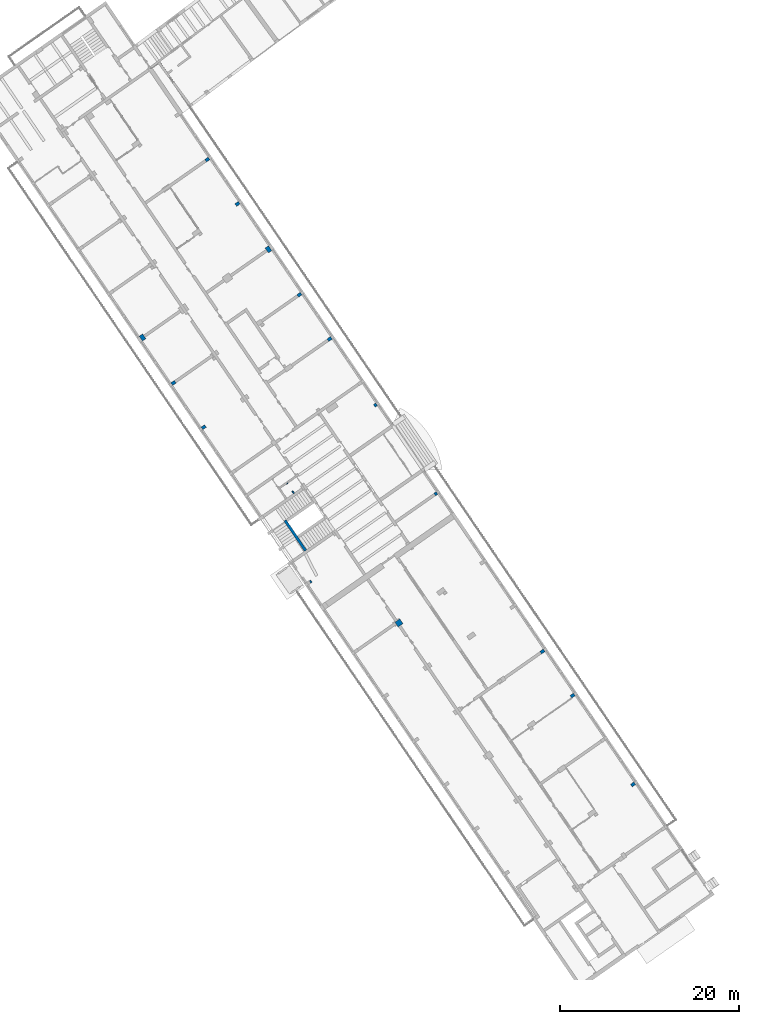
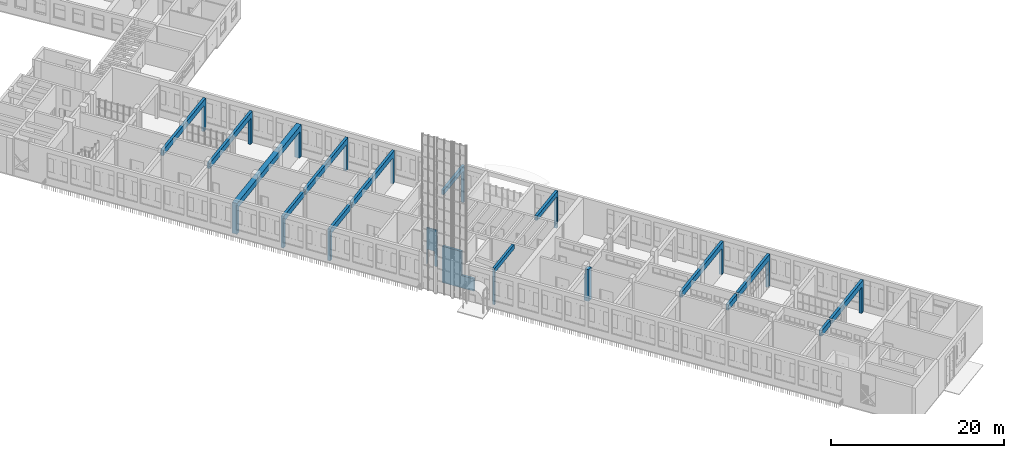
# One storey, part 146 of 157: 16 walls.
"""IFC2X3 building model written with IfcOpenShell, lengths in millimetres."""

from ifc_helpers import new_model, entity, si_unit, converted_unit, derived_unit, direction, frame, origin, place, context, subcontext, project, spatial, faceted_brep, material, layer, layer_set, type_object, element, save


model = new_model("IFC2X3")

# Units and contexts
model_context = context("Model", 3, precision=0.01, world=origin(), true_north=direction((6.123031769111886e-17, 1.0)))
body_context = subcontext(model_context, "Body", "Model", "MODEL_VIEW")
ifc_project = project(units=[si_unit("LENGTHUNIT", "METRE", prefix="MILLI"), si_unit("AREAUNIT", "SQUARE_METRE"), si_unit("VOLUMEUNIT", "CUBIC_METRE"), converted_unit("PLANEANGLEUNIT", "DEGREE", entity("IfcRatioMeasure", 0.017453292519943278), si_unit("PLANEANGLEUNIT", "RADIAN"), dimensions=[0, 0, 0, 0, 0, 0, 0]), si_unit("MASSUNIT", "GRAM", prefix="KILO"), derived_unit("MASSDENSITYUNIT", [(si_unit("MASSUNIT", "GRAM", prefix="KILO"), 1), (si_unit("LENGTHUNIT", "METRE"), -3)]), derived_unit("MOMENTOFINERTIAUNIT", [(si_unit("LENGTHUNIT", "METRE"), 4)]), si_unit("TIMEUNIT", "SECOND"), si_unit("FREQUENCYUNIT", "HERTZ"), si_unit("THERMODYNAMICTEMPERATUREUNIT", "DEGREE_CELSIUS"), derived_unit("THERMALTRANSMITTANCEUNIT", [(si_unit("MASSUNIT", "GRAM", prefix="KILO"), 1), (si_unit("THERMODYNAMICTEMPERATUREUNIT", "KELVIN"), -1), (si_unit("TIMEUNIT", "SECOND"), -3)]), derived_unit("THERMALCONDUCTANCEUNIT", [(si_unit("MASSUNIT", "GRAM", prefix="KILO"), 1), (si_unit("LENGTHUNIT", "METRE"), 1), (si_unit("THERMODYNAMICTEMPERATUREUNIT", "KELVIN"), -1), (si_unit("TIMEUNIT", "SECOND"), -3)]), derived_unit("VOLUMETRICFLOWRATEUNIT", [(si_unit("LENGTHUNIT", "METRE"), 3), (si_unit("TIMEUNIT", "SECOND"), -1)]), derived_unit("MASSFLOWRATEUNIT", [(si_unit("MASSUNIT", "GRAM", prefix="KILO"), 1), (si_unit("TIMEUNIT", "SECOND"), -1)]), derived_unit("ROTATIONALFREQUENCYUNIT", [(si_unit("TIMEUNIT", "SECOND"), -1)]), si_unit("ELECTRICCURRENTUNIT", "AMPERE"), si_unit("ELECTRICVOLTAGEUNIT", "VOLT"), si_unit("POWERUNIT", "WATT"), converted_unit("FORCEUNIT", "KIP", entity("IfcRatioMeasure", 2.088543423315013e-05), si_unit("FORCEUNIT", "NEWTON"), dimensions=[1, 1, -2, 0, 0, 0, 0]), si_unit("ILLUMINANCEUNIT", "LUX"), si_unit("LUMINOUSFLUXUNIT", "LUMEN"), si_unit("LUMINOUSINTENSITYUNIT", "CANDELA"), derived_unit("USERDEFINED", [(si_unit("MASSUNIT", "GRAM", prefix="KILO"), -1), (si_unit("LENGTHUNIT", "METRE"), -2), (si_unit("TIMEUNIT", "SECOND"), 3), (si_unit("LUMINOUSFLUXUNIT", "LUMEN"), 1)]), derived_unit("USERDEFINED", [(si_unit("MASSUNIT", "GRAM", prefix="KILO"), 1), (si_unit("LENGTHUNIT", "METRE"), 3), (si_unit("TIMEUNIT", "SECOND"), -3), (si_unit("ELECTRICCURRENTUNIT", "AMPERE"), -2)]), derived_unit("USERDEFINED", [(si_unit("LENGTHUNIT", "METRE"), 2), (si_unit("TIMEUNIT", "SECOND"), -2)]), derived_unit("SOUNDPOWERUNIT", [(si_unit("MASSUNIT", "GRAM", prefix="KILO"), 1), (si_unit("LENGTHUNIT", "METRE"), 2), (si_unit("TIMEUNIT", "SECOND"), -3)]), derived_unit("SOUNDPRESSUREUNIT", [(si_unit("MASSUNIT", "GRAM", prefix="KILO"), 1), (si_unit("LENGTHUNIT", "METRE"), -1), (si_unit("TIMEUNIT", "SECOND"), -2)]), derived_unit("LINEARVELOCITYUNIT", [(si_unit("LENGTHUNIT", "METRE"), 1), (si_unit("TIMEUNIT", "SECOND"), -1)]), si_unit("PRESSUREUNIT", "PASCAL"), derived_unit("USERDEFINED", [(si_unit("LENGTHUNIT", "METRE"), -2), (si_unit("MASSUNIT", "GRAM", prefix="KILO"), 1), (si_unit("TIMEUNIT", "SECOND"), -2)]), derived_unit("LINEARFORCEUNIT", [(si_unit("MASSUNIT", "GRAM", prefix="KILO"), 1), (si_unit("LENGTHUNIT", "METRE"), 1), (si_unit("TIMEUNIT", "SECOND"), -2), (si_unit("LENGTHUNIT", "METRE"), -1)]), derived_unit("PLANARFORCEUNIT", [(si_unit("MASSUNIT", "GRAM", prefix="KILO"), 1), (si_unit("LENGTHUNIT", "METRE"), 1), (si_unit("TIMEUNIT", "SECOND"), -2), (si_unit("LENGTHUNIT", "METRE"), -2)]), derived_unit("SPECIFICHEATCAPACITYUNIT", [(si_unit("LENGTHUNIT", "METRE"), 2), (si_unit("TIMEUNIT", "SECOND"), -2), (si_unit("THERMODYNAMICTEMPERATUREUNIT", "KELVIN"), -1)]), derived_unit("VAPORPERMEABILITYUNIT", [(si_unit("TIMEUNIT", "SECOND"), 1), (si_unit("LENGTHUNIT", "METRE"), -1)]), derived_unit("DYNAMICVISCOSITYUNIT", [(si_unit("MASSUNIT", "GRAM", prefix="KILO"), 1), (si_unit("LENGTHUNIT", "METRE"), -1), (si_unit("TIMEUNIT", "SECOND"), -1)]), derived_unit("THERMALEXPANSIONCOEFFICIENTUNIT", [(si_unit("THERMODYNAMICTEMPERATUREUNIT", "KELVIN"), -1)])], contexts=[model_context])

# Site, building, storey
site_placement = place(None, frame((0.0, 0.0, 0.0), z_axis=(0.0, 0.0, 1.0), x_axis=(0.8191520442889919, 0.5735764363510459, 0.0)))
site = spatial("IfcSite", under=ifc_project, at=site_placement, Name="Default", CompositionType="ELEMENT")
building_placement = place(site_placement, origin())
building = spatial("IfcBuilding", under=site, at=building_placement, CompositionType="ELEMENT")
storey_placement = place(building_placement, origin())
storey = spatial("IfcBuildingStorey", under=building, at=storey_placement, Name="1.EG +0.00", CompositionType="ELEMENT", Elevation=-4.331468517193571e-12)

# Walls
ifc_material = material(Name="Analytical Wall Surface_CJC")
ifc_layer_1 = layer(ifc_material, 300.0)
ifc_layer_set_1 = layer_set([ifc_layer_1], Name="Basic Wall:Wand_Innen_30")
wall_type_1 = type_object("IfcWallType", Name="Basic Wall:Wand_Innen_30", PredefinedType="STANDARD", material=ifc_layer_set_1)
wall_1_placement = place(storey_placement, frame((-220895.37430840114, 113948.26835250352, 0.0), z_axis=(0.0, 0.0, 1.0), x_axis=(-0.012729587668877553, -0.9999189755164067, 0.0)))
element("IfcWall", 1, at=wall_1_placement, inside=storey, type_object=wall_type_1, Name="Basic Wall:Wand_Innen_30", ObjectType="Basic Wall:Wand_Innen_30", context=body_context, shape_type="Brep", body=[
    faceted_brep([(3.81918574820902, -150.0, 0.0), (4104.15141304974, -150.0, 0.0), (4104.15141304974, -150.0, 1750.0), (2504.021763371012, -150.0, 1750.0), (2504.021763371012, -150.0, 5150.0), (3.81918574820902, -150.0, 5150.0), (0.0, 150.0, 0.0), (0.0, 150.0, 5150.0), (300.02430931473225, 150.0, 5150.0), (2200.1782683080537, 150.0, 5150.0), (2500.202577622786, 150.0, 5150.0), (2500.202577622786, 150.0, 1750.0), (4100.332227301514, 150.0, 1750.0), (4100.332227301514, 150.0, 0.0), (2500.202577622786, 150.0, 0.0), (2200.1782683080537, 150.0, 0.0), (300.02430931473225, 150.0, 0.0)], [[[0, 1, 2, 3, 4, 5]], [[6, 7, 8, 9, 10, 11, 12, 13, 14, 15, 16]], [[0, 5, 7, 6]], [[2, 1, 13, 12]], [[1, 0, 6, 16, 15, 14, 13]], [[3, 2, 12, 11]], [[5, 4, 10, 9, 8, 7]], [[4, 3, 11, 10]]]),
])
wall_2_placement = place(storey_placement, frame((-222560.5589082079, 106671.35891435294, 0.0)))
element("IfcWall", 2, at=wall_2_placement, inside=storey, type_object=wall_type_1, Name="Basic Wall:Wand_Innen_30", ObjectType="Basic Wall:Wand_Innen_30", context=body_context, shape_type="Brep", body=[
    faceted_brep([(5371.30511819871, -150.0, 5150.0), (0.0, -150.0, 5150.0), (0.0, -150.0, 0.0), (195.42607306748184, -150.0, 0.0), (195.42607306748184, -150.0, 4500.0), (5371.30511819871, -150.0, 4500.0), (5375.124303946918, 150.0, 5150.0), (5375.124303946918, 150.0, 4500.0), (1154.3086657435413, 150.0, 4500.0), (851.3603939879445, 150.0, 4500.0), (195.426073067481, 150.0, 4500.0), (195.426073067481, 150.0, 0.0), (0.0, 150.0, 0.0), (0.0, 150.0, 5150.0), (851.3603939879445, 150.0, 5150.0), (1154.3086657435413, 150.0, 5150.0)], [[[0, 1, 2, 3, 4, 5]], [[6, 7, 8, 9, 10, 11, 12, 13, 14, 15]], [[2, 1, 13, 12]], [[3, 2, 12, 11]], [[4, 3, 11, 10]], [[5, 4, 10, 9, 8, 7]], [[1, 0, 6, 15, 14, 13]], [[0, 5, 7, 6]]]),
])
ifc_layer_2 = layer(ifc_material, 350.0)
ifc_layer_set_2 = layer_set([ifc_layer_2], Name="Basic Wall:Wand_Innen_35")
wall_type_2 = type_object("IfcWallType", Name="Basic Wall:Wand_Innen_35", PredefinedType="STANDARD", material=ifc_layer_set_2)
wall_3_placement = place(storey_placement, frame((-205479.25681292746, 85396.35891435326, 0.0), z_axis=(0.0, 0.0, 1.0), x_axis=(-1.0, 0.0, 0.0)))
element("IfcWall", 3, at=wall_3_placement, inside=storey, type_object=wall_type_2, Name="Basic Wall:Wand_Innen_35", ObjectType="Basic Wall:Wand_Innen_35", context=body_context, shape_type="Brep", body=[
    faceted_brep([(0.0, -175.0, 0.0), (458.2963809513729, -175.0, 0.0), (458.2963809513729, -175.0, 3700.0), (5378.782567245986, -175.0, 3700.0), (6278.782567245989, -175.0, 3700.0), (7576.708667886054, -175.0, 3700.0), (7876.732977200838, -175.0, 3700.0), (11379.281047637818, -175.0, 3700.0), (11379.281047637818, -175.0, 4500.0), (7876.732977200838, -175.0, 4500.0), (7576.708667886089, -175.0, 4500.0), (6278.782567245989, -175.0, 4500.0), (5378.782567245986, -175.0, 4500.0), (0.0, -175.0, 4500.0), (4.447289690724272, 175.0, 0.0), (4.447289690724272, 175.0, 4500.0), (5378.782567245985, 175.0, 4500.0), (6278.7825672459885, 175.0, 4500.0), (8681.241364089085, 175.0, 4500.0), (8981.265673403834, 175.0, 4500.0), (11379.281047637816, 175.0, 4500.0), (11379.281047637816, 175.0, 3700.0), (8981.265673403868, 175.0, 3700.0), (8681.241364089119, 175.0, 3700.0), (6278.7825672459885, 175.0, 3700.0), (5378.782567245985, 175.0, 3700.0), (458.29638095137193, 175.0, 3700.0), (458.29638095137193, 175.0, 0.0), (458.29638095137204, 150.0, 0.0), (458.29638095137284, -150.0, 0.0), (458.29638095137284, -150.0, 3700.0), (458.29638095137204, 150.0, 3700.0)], [[[0, 1, 2, 3, 4, 5, 6, 7, 8, 9, 10, 11, 12, 13]], [[14, 15, 16, 17, 18, 19, 20, 21, 22, 23, 24, 25, 26, 27]], [[8, 7, 21, 20]], [[1, 0, 14, 27, 28, 29]], [[7, 6, 5, 4, 3, 2, 30, 31, 26, 25, 24, 23, 22, 21]], [[13, 12, 11, 10, 9, 8, 20, 19, 18, 17, 16, 15]], [[2, 1, 29, 28, 27, 26, 31, 30]], [[0, 13, 15, 14]]]),
])
wall_4_placement = place(storey_placement, frame((-205555.18457846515, 79420.8727674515, 0.0), z_axis=(0.0, 0.0, 1.0), x_axis=(-1.0, 0.0, 0.0)))
element("IfcWall", 4, at=wall_4_placement, inside=storey, type_object=wall_type_2, Name="Basic Wall:Wand_Innen_35", ObjectType="Basic Wall:Wand_Innen_35", context=body_context, shape_type="Brep", body=[
    faceted_brep([(0.0, -175.0, 0.0), (458.7585193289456, -175.0, 0.0), (458.7585193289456, -175.0, 3700.0), (5379.244705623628, -175.0, 3700.0), (6279.244705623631, -175.0, 3700.0), (8676.929520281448, -175.0, 3700.0), (8676.929520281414, -175.0, 4500.0), (6279.244705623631, -175.0, 4500.0), (5379.244705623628, -175.0, 4500.0), (0.0, -175.0, 4500.0), (4.447289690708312, 175.0, 0.0), (458.75851932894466, 175.0, 0.0), (458.75851932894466, 175.0, 3700.0), (5379.244705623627, 175.0, 3700.0), (5381.429911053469, 175.0, 3700.0), (5931.148221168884, 175.0, 3700.0), (6279.24470562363, 175.0, 3700.0), (8681.38523698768, 175.0, 3700.0), (4.447289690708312, 175.0, 4500.0), (8681.38523698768, 175.0, 4500.0), (6279.24470562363, 175.0, 4500.0), (5931.148221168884, 175.0, 4500.0), (5379.244705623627, 175.0, 4500.0)], [[[0, 1, 2, 3, 4, 5, 6, 7, 8, 9]], [[1, 0, 10, 11]], [[2, 12, 13, 14, 15, 16, 17, 5, 4, 3]], [[2, 1, 11, 12]], [[0, 9, 18, 10]], [[6, 5, 17, 19]], [[18, 9, 8, 7, 6, 19, 20, 21, 22]], [[11, 10, 18, 22, 21, 20, 19, 17, 16, 15, 14, 13, 12]]]),
    faceted_brep([(11381.115464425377, 175.0, 4500.0), (11381.115464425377, 175.0, 3700.0), (11379.208267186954, 175.0, 3700.0), (8981.40954630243, 175.0, 3700.0), (8981.409546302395, 175.0, 4500.0), (11379.208267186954, 175.0, 4500.0), (11376.65737432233, -175.0, 4500.0), (8976.953829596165, -175.0, 4500.0), (8976.9538295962, -175.0, 3700.0), (11376.65737432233, -175.0, 3700.0), (11379.208267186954, 25.267935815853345, 3700.0)], [[[0, 1, 2, 3, 4, 5]], [[6, 0, 5, 4, 7]], [[8, 7, 4, 3]], [[6, 9, 10, 1, 0]], [[1, 10, 9, 8, 3, 2]], [[9, 6, 7, 8]]]),
])
wall_5_placement = place(storey_placement, frame((-205707.9683912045, 67396.84506125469, 0.0), z_axis=(0.0, 0.0, 1.0), x_axis=(-1.0, 0.0, 0.0)))
element("IfcWall", 5, at=wall_5_placement, inside=storey, type_object=wall_type_2, Name="Basic Wall:Wand_Innen_35", ObjectType="Basic Wall:Wand_Innen_35", context=body_context, shape_type="Brep", body=[
    faceted_brep([(0.0, -175.0, 0.0), (458.72975861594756, -175.0, 0.0), (458.72975861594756, -175.0, 3700.0), (5379.21594491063, -175.0, 3700.0), (6279.215944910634, -175.0, 3700.0), (8677.219025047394, -175.0, 3700.0), (8677.219025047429, -175.0, 4500.0), (6279.215944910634, -175.0, 4500.0), (5379.21594491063, -175.0, 4500.0), (0.0, -175.0, 4500.0), (4.4472896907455, 175.0, 0.0), (458.72975861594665, 175.0, 0.0), (458.72975861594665, 175.0, 3700.0), (5379.215944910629, 175.0, 3700.0), (6279.215944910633, 175.0, 3700.0), (8681.67474175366, 175.0, 3700.0), (4.4472896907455, 175.0, 4500.0), (8681.67474175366, 175.0, 4500.0), (6279.215944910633, 175.0, 4500.0), (5379.215944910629, 175.0, 4500.0)], [[[0, 1, 2, 3, 4, 5, 6, 7, 8, 9]], [[1, 0, 10, 11]], [[2, 12, 13, 14, 15, 5, 4, 3]], [[2, 1, 11, 12]], [[0, 9, 16, 10]], [[6, 5, 15, 17]], [[16, 9, 8, 7, 6, 17, 18, 19]], [[11, 10, 16, 19, 18, 17, 15, 14, 13, 12]]]),
    faceted_brep([(11379.714425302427, 175.0, 4500.0), (11379.714425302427, 175.0, 3700.0), (8981.699051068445, 175.0, 3700.0), (8981.69905106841, 175.0, 4500.0), (11379.714425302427, -175.0, 4500.0), (11379.714425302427, -175.0, 3700.0), (8977.243334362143, -175.0, 4500.0), (8977.243334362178, -175.0, 3700.0)], [[[0, 1, 2, 3]], [[4, 5, 1, 0]], [[4, 0, 3, 6]], [[7, 6, 3, 2]], [[1, 5, 7, 2]], [[5, 4, 6, 7]]]),
])
wall_6_placement = place(storey_placement, frame((-222597.720323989, 127696.35236313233, 0.0)))
element("IfcWall", 6, at=wall_6_placement, inside=storey, type_object=wall_type_2, Name="Basic Wall:Wand_Innen_35", ObjectType="Basic Wall:Wand_Innen_35", context=body_context, shape_type="Brep", body=[
    faceted_brep([(5675.690790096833, -175.0, 4500.0), (5377.706136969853, -175.0, 4500.0), (0.0, -175.0, 4500.0), (0.0, -175.0, 0.0), (462.06475609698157, -175.0, 0.0), (462.06475609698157, -175.0, 3700.0), (5377.706136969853, -175.0, 3700.0), (5675.690790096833, -175.0, 3700.0), (5680.146506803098, 175.0, 4500.0), (5680.146506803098, 175.0, 3700.0), (5377.706136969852, 175.0, 3700.0), (462.0647560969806, 175.0, 3700.0), (462.0647560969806, 175.0, 0.0), (0.0, 175.0, 0.0), (0.0, 175.0, 4500.0), (5377.706136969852, 175.0, 4500.0)], [[[0, 1, 2, 3, 4, 5, 6, 7]], [[8, 9, 10, 11, 12, 13, 14, 15]], [[3, 2, 14, 13]], [[4, 3, 13, 12]], [[5, 4, 12, 11]], [[7, 6, 5, 11, 10, 9]], [[0, 7, 9, 8]], [[2, 1, 0, 8, 15, 14]]]),
])
wall_7_placement = place(storey_placement, frame((-222523.25871924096, 133694.414326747, 0.0)))
element("IfcWall", 7, at=wall_7_placement, inside=storey, type_object=wall_type_2, Name="Basic Wall:Wand_Innen_35", ObjectType="Basic Wall:Wand_Innen_35", context=body_context, shape_type="Brep", body=[
    faceted_brep([(5677.5882279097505, -175.0, 4500.0), (5379.622058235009, -175.0, 4500.0), (0.0, -175.0, 4500.0), (0.0, -175.0, 0.0), (462.0647560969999, -175.0, 0.0), (462.0647560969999, -175.0, 3700.0), (5379.622058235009, -175.0, 3700.0), (5677.5882279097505, -175.0, 3700.0), (5682.043944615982, 175.0, 4500.0), (5682.043944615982, 175.0, 3700.0), (5379.622058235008, 175.0, 3700.0), (462.06475609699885, 175.0, 3700.0), (462.06475609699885, 175.0, 0.0), (0.0, 175.0, 0.0), (0.0, 175.0, 4500.0), (5379.622058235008, 175.0, 4500.0), (462.06475609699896, 150.0, 0.0), (462.0647560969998, -150.0, 0.0), (462.06475609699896, 150.0, 3700.0), (462.0647560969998, -150.0, 3700.0)], [[[0, 1, 2, 3, 4, 5, 6, 7]], [[8, 9, 10, 11, 12, 13, 14, 15]], [[3, 2, 14, 13]], [[4, 3, 13, 12, 16, 17]], [[5, 4, 17, 16, 12, 11, 18, 19]], [[7, 6, 5, 19, 18, 11, 10, 9]], [[0, 7, 9, 8]], [[2, 1, 0, 8, 15, 14]]]),
])
wall_8_placement = place(storey_placement, frame((-204941.52324761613, 127696.35891435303, 0.0), z_axis=(0.0, 0.0, 1.0), x_axis=(-1.0, 0.0, 0.0)))
element("IfcWall", 8, at=wall_8_placement, inside=storey, type_object=wall_type_2, Name="Basic Wall:Wand_Innen_35", ObjectType="Basic Wall:Wand_Innen_35", context=body_context, shape_type="Brep", body=[
    faceted_brep([(0.0, -175.0, 0.0), (457.52475576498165, -175.0, 0.0), (457.52475576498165, -175.0, 3700.0), (5378.01094205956, -175.0, 3700.0), (6278.010942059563, -175.0, 3700.0), (8676.026176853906, -175.0, 3700.0), (8976.050486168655, -175.0, 3700.0), (11378.490939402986, -175.0, 3700.0), (11676.026176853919, -175.0, 3700.0), (11676.026176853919, -175.0, 4500.0), (11378.490939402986, -175.0, 4500.0), (8976.050486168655, -175.0, 4500.0), (8676.026176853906, -175.0, 4500.0), (6278.010942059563, -175.0, 4500.0), (5378.01094205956, -175.0, 4500.0), (0.0, -175.0, 4500.0), (4.452090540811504, 175.0, 0.0), (4.452090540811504, 175.0, 4500.0), (5378.01094205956, 175.0, 4500.0), (6278.010942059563, 175.0, 4500.0), (8680.481893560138, 175.0, 4500.0), (8980.506202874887, 175.0, 4500.0), (11378.490939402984, 175.0, 4500.0), (11680.481893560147, 175.0, 4500.0), (11680.481893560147, 175.0, 3700.0), (11378.490939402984, 175.0, 3700.0), (8980.506202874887, 175.0, 3700.0), (8680.481893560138, 175.0, 3700.0), (6278.010942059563, 175.0, 3700.0), (5378.01094205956, 175.0, 3700.0), (457.5247557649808, 175.0, 3700.0), (457.5247557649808, 175.0, 0.0), (457.5247557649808, 150.0, 0.0), (457.5247557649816, -150.0, 0.0), (457.5247557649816, -150.0, 3700.0), (457.5247557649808, 150.0, 3700.0)], [[[0, 1, 2, 3, 4, 5, 6, 7, 8, 9, 10, 11, 12, 13, 14, 15]], [[16, 17, 18, 19, 20, 21, 22, 23, 24, 25, 26, 27, 28, 29, 30, 31]], [[1, 0, 16, 31, 32, 33]], [[8, 7, 6, 5, 4, 3, 2, 34, 35, 30, 29, 28, 27, 26, 25, 24]], [[15, 14, 13, 12, 11, 10, 9, 23, 22, 21, 20, 19, 18, 17]], [[2, 1, 33, 32, 31, 30, 35, 34]], [[0, 15, 17, 16]], [[9, 8, 24, 23]]]),
])
wall_9_placement = place(storey_placement, frame((-204632.42096149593, 151996.35891435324, 0.0), z_axis=(0.0, 0.0, 1.0), x_axis=(-1.0, 0.0, 0.0)))
element("IfcWall", 9, at=wall_9_placement, inside=storey, type_object=wall_type_2, Name="Basic Wall:Wand_Innen_35", ObjectType="Basic Wall:Wand_Innen_35", context=body_context, shape_type="Brep", body=[
    faceted_brep([(0.0, -175.0, 0.0), (457.27299627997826, -175.0, 0.0), (457.27299627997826, -175.0, 3700.0), (5377.759182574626, -175.0, 3700.0), (6277.7591825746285, -175.0, 3700.0), (8675.774417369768, -175.0, 3700.0), (8975.798726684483, -175.0, 3700.0), (11377.738037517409, -175.0, 3700.0), (11675.774417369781, -175.0, 3700.0), (11675.774417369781, -175.0, 4500.0), (11377.738037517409, -175.0, 4500.0), (8975.798726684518, -175.0, 4500.0), (8675.774417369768, -175.0, 4500.0), (6277.7591825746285, -175.0, 4500.0), (5377.759182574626, -175.0, 4500.0), (0.0, -175.0, 4500.0), (4.452090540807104, 175.0, 0.0), (4.452090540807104, 175.0, 4500.0), (5377.759182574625, 175.0, 4500.0), (6277.759182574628, 175.0, 4500.0), (8680.230134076, 175.0, 4500.0), (8980.25444339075, 175.0, 4500.0), (11377.738037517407, 175.0, 4500.0), (11680.230134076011, 175.0, 4500.0), (11680.230134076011, 175.0, 3700.0), (11377.738037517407, 175.0, 3700.0), (8980.254443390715, 175.0, 3700.0), (8680.230134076, 175.0, 3700.0), (6277.759182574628, 175.0, 3700.0), (5377.759182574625, 175.0, 3700.0), (457.2729962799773, 175.0, 3700.0), (457.2729962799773, 175.0, 0.0), (457.27299627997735, 150.0, 0.0), (457.2729962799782, -150.0, 0.0), (457.2729962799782, -150.0, 3700.0), (457.27299627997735, 150.0, 3700.0)], [[[0, 1, 2, 3, 4, 5, 6, 7, 8, 9, 10, 11, 12, 13, 14, 15]], [[16, 17, 18, 19, 20, 21, 22, 23, 24, 25, 26, 27, 28, 29, 30, 31]], [[1, 0, 16, 31, 32, 33]], [[8, 7, 6, 5, 4, 3, 2, 34, 35, 30, 29, 28, 27, 26, 25, 24]], [[15, 14, 13, 12, 11, 10, 9, 23, 22, 21, 20, 19, 18, 17]], [[2, 1, 33, 32, 31, 30, 35, 34]], [[0, 15, 17, 16]], [[9, 8, 24, 23]]]),
])
wall_10_placement = place(storey_placement, frame((-204708.74251362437, 145996.3589143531, 0.0), z_axis=(0.0, 0.0, 1.0), x_axis=(-1.0, 0.0, 0.0)))
element("IfcWall", 10, at=wall_10_placement, inside=storey, type_object=wall_type_2, Name="Basic Wall:Wand_Innen_35", ObjectType="Basic Wall:Wand_Innen_35", context=body_context, shape_type="Brep", body=[
    faceted_brep([(0.0, -175.0, 0.0), (457.3351591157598, -175.0, 0.0), (457.3351591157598, -175.0, 3700.0), (5377.8213454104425, -175.0, 3700.0), (6277.821345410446, -175.0, 3700.0), (8675.836580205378, -175.0, 3700.0), (8975.860889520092, -175.0, 3700.0), (11379.124608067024, -175.0, 3700.0), (11675.836580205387, -175.0, 3700.0), (11675.836580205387, -175.0, 4500.0), (11379.124608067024, -175.0, 4500.0), (8975.860889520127, -175.0, 4500.0), (8675.836580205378, -175.0, 4500.0), (6277.821345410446, -175.0, 4500.0), (5377.8213454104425, -175.0, 4500.0), (0.0, -175.0, 4500.0), (4.45209054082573, 175.0, 0.0), (4.45209054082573, 175.0, 4500.0), (5377.821345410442, 175.0, 4500.0), (6277.821345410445, 175.0, 4500.0), (8680.292296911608, 175.0, 4500.0), (8980.316606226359, 175.0, 4500.0), (11379.124608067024, 175.0, 4500.0), (11680.29229691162, 175.0, 4500.0), (11680.29229691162, 175.0, 3700.0), (11379.124608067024, 175.0, 3700.0), (8980.316606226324, 175.0, 3700.0), (8680.292296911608, 175.0, 3700.0), (6277.821345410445, 175.0, 3700.0), (5377.821345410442, 175.0, 3700.0), (457.33515911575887, 175.0, 3700.0), (457.33515911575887, 175.0, 0.0)], [[[0, 1, 2, 3, 4, 5, 6, 7, 8, 9, 10, 11, 12, 13, 14, 15]], [[16, 17, 18, 19, 20, 21, 22, 23, 24, 25, 26, 27, 28, 29, 30, 31]], [[1, 0, 16, 31]], [[8, 7, 6, 5, 4, 3, 2, 30, 29, 28, 27, 26, 25, 24]], [[15, 14, 13, 12, 11, 10, 9, 23, 22, 21, 20, 19, 18, 17]], [[2, 1, 31, 30]], [[0, 15, 17, 16]], [[9, 8, 24, 23]]]),
])
wall_11_placement = place(storey_placement, frame((-204865.2016954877, 133696.35891435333, 0.0), z_axis=(0.0, 0.0, 1.0), x_axis=(-1.0, 0.0, 0.0)))
element("IfcWall", 11, at=wall_11_placement, inside=storey, type_object=wall_type_2, Name="Basic Wall:Wand_Innen_35", ObjectType="Basic Wall:Wand_Innen_35", context=body_context, shape_type="Brep", body=[
    faceted_brep([(0.0, -175.0, 0.0), (457.4625929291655, -175.0, 0.0), (457.4625929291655, -175.0, 3700.0), (5377.948779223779, -175.0, 3700.0), (5976.445875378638, -175.0, 3700.0), (6276.471785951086, -175.0, 3700.0), (6277.9487792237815, -175.0, 3700.0), (8675.964014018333, -175.0, 3700.0), (8975.988323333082, -175.0, 3700.0), (11378.434965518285, -175.0, 3700.0), (11675.964014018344, -175.0, 3700.0), (11675.964014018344, -175.0, 4500.0), (11378.434965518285, -175.0, 4500.0), (8975.988323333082, -175.0, 4500.0), (8675.964014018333, -175.0, 4500.0), (6277.9487792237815, -175.0, 4500.0), (6276.471785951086, -175.0, 4500.0), (5976.445875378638, -175.0, 4500.0), (5377.948779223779, -175.0, 4500.0), (0.0, -175.0, 4500.0), (4.45209054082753, 175.0, 0.0), (4.45209054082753, 175.0, 4500.0), (5377.948779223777, 175.0, 4500.0), (5981.046007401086, 175.0, 4500.0), (6281.071917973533, 175.0, 4500.0), (8680.419730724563, 175.0, 4500.0), (8980.444040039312, 175.0, 4500.0), (11378.434965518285, 175.0, 4500.0), (11680.419730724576, 175.0, 4500.0), (11680.419730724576, 175.0, 3700.0), (11378.434965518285, 175.0, 3700.0), (8980.444040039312, 175.0, 3700.0), (8680.419730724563, 175.0, 3700.0), (6281.071917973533, 175.0, 3700.0), (5981.046007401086, 175.0, 3700.0), (5377.948779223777, 175.0, 3700.0), (457.4625929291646, 175.0, 3700.0), (457.4625929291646, 175.0, 0.0), (457.46259292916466, 150.0, 0.0), (457.46259292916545, -150.0, 0.0), (457.46259292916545, -150.0, 3700.0), (457.46259292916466, 150.0, 3700.0)], [[[0, 1, 2, 3, 4, 5, 6, 7, 8, 9, 10, 11, 12, 13, 14, 15, 16, 17, 18, 19]], [[20, 21, 22, 23, 24, 25, 26, 27, 28, 29, 30, 31, 32, 33, 34, 35, 36, 37]], [[1, 0, 20, 37, 38, 39]], [[10, 9, 8, 7, 6, 5, 4, 3, 2, 40, 41, 36, 35, 34, 33, 32, 31, 30, 29]], [[19, 18, 17, 16, 15, 14, 13, 12, 11, 28, 27, 26, 25, 24, 23, 22, 21]], [[2, 1, 39, 38, 37, 36, 41, 40]], [[0, 19, 21, 20]], [[11, 10, 29, 28]]]),
])
wall_12_placement = place(storey_placement, frame((-210889.10505040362, 106696.35891435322, 0.0)))
element("IfcWall", 12, at=wall_12_placement, inside=storey, type_object=wall_type_2, Name="Basic Wall:Wand_Innen_35", ObjectType="Basic Wall:Wand_Innen_35", context=body_context, shape_type="Brep", body=[
    faceted_brep([(5676.050291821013, -175.0, 5150.0), (0.0, -175.0, 5150.0), (0.0, -175.0, 4500.0), (5372.714044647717, -175.0, 4500.0), (5372.714044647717, -175.0, 0.0), (5676.050291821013, -175.0, 0.0), (5680.497581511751, 175.0, 5150.0), (5680.497581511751, 175.0, 0.0), (5372.714044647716, 175.0, 0.0), (5372.714044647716, 175.0, 4500.0), (4.455716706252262, 175.0, 4500.0), (4.455716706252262, 175.0, 5150.0), (5372.714044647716, 150.0, 0.0), (5372.714044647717, -150.0, 0.0)], [[[0, 1, 2, 3, 4, 5]], [[6, 7, 8, 9, 10, 11]], [[0, 5, 7, 6]], [[1, 0, 6, 11]], [[3, 2, 10, 9]], [[4, 3, 9, 8, 12, 13]], [[5, 4, 13, 12, 8, 7]], [[2, 1, 11, 10]]]),
])
wall_13_placement = place(storey_placement, frame((-210736.33762047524, 118696.35891435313, 0.0)))
element("IfcWall", 13, at=wall_13_placement, inside=storey, type_object=wall_type_2, Name="Basic Wall:Wand_Innen_35", ObjectType="Basic Wall:Wand_Innen_35", context=body_context, shape_type="Brep", body=[
    faceted_brep([(5675.879954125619, -175.0, 5150.0), (0.0, -175.0, 5150.0), (0.0, -175.0, 4500.0), (5369.946614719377, -175.0, 4500.0), (5369.946614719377, -175.0, 0.0), (5675.879954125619, -175.0, 0.0), (5680.3320446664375, 175.0, 5150.0), (5680.3320446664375, 175.0, 0.0), (5369.946614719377, 175.0, 0.0), (5369.946614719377, 175.0, 4500.0), (4.455716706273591, 175.0, 4500.0), (4.455716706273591, 175.0, 5150.0)], [[[0, 1, 2, 3, 4, 5]], [[6, 7, 8, 9, 10, 11]], [[1, 0, 6, 11]], [[3, 2, 10, 9]], [[4, 3, 9, 8]], [[5, 4, 8, 7]], [[0, 5, 7, 6]], [[2, 1, 11, 10]]]),
])
ifc_layer_3 = layer(ifc_material, 650.0)
ifc_layer_set_3 = layer_set([ifc_layer_3], Name="Basic Wall:Wand_Innen_65")
wall_type_3 = type_object("IfcWallType", Name="Basic Wall:Wand_Innen_65", PredefinedType="STANDARD", material=ifc_layer_set_3)
wall_14_placement = place(storey_placement, frame((-222445.12219248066, 139846.3589143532, -32.971652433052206)))
element("IfcWall", 14, at=wall_14_placement, inside=storey, type_object=wall_type_3, Name="Basic Wall:Wand_Innen_65", ObjectType="Basic Wall:Wand_Innen_65", context=body_context, shape_type="Brep", body=[
    faceted_brep([(0.0, -325.0, 150.0), (459.2926530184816, -325.0, 150.0), (459.2926530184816, -325.0, 3732.971652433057), (5379.778839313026, -325.0, 3732.971652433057), (5675.86017191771, -325.0, 3732.971652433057), (5975.884481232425, -325.0, 3732.9716524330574), (6279.778839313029, -325.0, 3732.971652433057), (8675.860171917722, -325.0, 3732.971652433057), (8975.884481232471, -325.0, 3732.971652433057), (11378.35543273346, -325.0, 3732.971652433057), (12278.355432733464, -325.0, 3732.971652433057), (17201.614605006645, -325.0, 3732.971652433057), (17201.614605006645, -325.0, 0.0), (17651.789958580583, -325.0, 23.58568057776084), (17651.789958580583, -325.0, 4532.971652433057), (12278.355432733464, -325.0, 4532.971652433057), (11378.35543273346, -325.0, 4532.971652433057), (8975.884481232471, -325.0, 4532.971652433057), (8675.860171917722, -325.0, 4532.971652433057), (6279.778839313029, -325.0, 4532.971652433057), (5975.88448123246, -325.0, 4532.971652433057), (5675.86017191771, -325.0, 4532.971652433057), (5379.778839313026, -325.0, 4532.971652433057), (0.0, -325.0, 4532.971652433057), (8.270639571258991, 325.0, 150.0), (8.270639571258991, 325.0, 4532.971652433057), (5379.778839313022, 325.0, 4532.971652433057), (5684.135074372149, 325.0, 4532.971652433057), (5984.159383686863, 325.0, 4532.971652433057), (6279.778839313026, 325.0, 4532.971652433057), (8684.13507437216, 325.0, 4532.971652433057), (8984.159383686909, 325.0, 4532.971652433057), (11378.355432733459, 325.0, 4532.971652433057), (12278.355432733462, 325.0, 4532.971652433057), (17660.058126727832, 325.0, 4532.971652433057), (17660.058126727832, 325.0, 24.01886815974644), (17201.61460500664, 325.0, 0.0), (17201.61460500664, 325.0, 3732.971652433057), (12278.355432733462, 325.0, 3732.971652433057), (11378.355432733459, 325.0, 3732.971652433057), (8984.159383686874, 325.0, 3732.971652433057), (8684.13507437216, 325.0, 3732.971652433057), (6279.778839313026, 325.0, 3732.971652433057), (5984.159383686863, 325.0, 3732.971652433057), (5684.135074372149, 325.0, 3732.971652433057), (5379.778839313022, 325.0, 3732.971652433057), (459.2926530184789, 325.0, 3732.971652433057), (459.2926530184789, 325.0, 150.0), (459.29265301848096, -150.0, 3732.971652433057), (459.29265301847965, 150.0, 3732.971652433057), (17201.614605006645, 150.0, 3732.971652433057), (17201.614605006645, -150.0, 3732.971652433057)], [[[0, 1, 2, 3, 4, 5, 6, 7, 8, 9, 10, 11, 12, 13, 14, 15, 16, 17, 18, 19, 20, 21, 22, 23]], [[24, 25, 26, 27, 28, 29, 30, 31, 32, 33, 34, 35, 36, 37, 38, 39, 40, 41, 42, 43, 44, 45, 46, 47]], [[14, 13, 35, 34]], [[23, 22, 21, 20, 19, 18, 17, 16, 15, 14, 34, 33, 32, 31, 30, 29, 28, 27, 26, 25]], [[11, 10, 9, 8, 7, 6, 5, 4, 3, 2, 48, 49, 46, 45, 44, 43, 42, 41, 40, 39, 38, 37, 50, 51]], [[12, 11, 51, 50, 37, 36]], [[13, 12, 36, 35]], [[0, 23, 25, 24]], [[1, 0, 24, 47]], [[2, 1, 47, 46, 49, 48]]]),
])
wall_15_placement = place(storey_placement, frame((-217036.56200586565, 96900.49823367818, 0.0), z_axis=(0.0, 0.0, 1.0), x_axis=(0.012736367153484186, 0.9999188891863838, 0.0)))
element("IfcWall", 15, at=wall_15_placement, inside=storey, type_object=wall_type_3, Name="Basic Wall:Wand_Innen_65", ObjectType="Basic Wall:Wand_Innen_65", context=body_context, shape_type="Brep", body=[
    faceted_brep([(0.0, -325.0, 0.0), (250.02027934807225, -325.0, 0.0), (606.7404043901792, -325.0, 0.0), (648.1079809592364, -325.0, 0.0), (648.1079809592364, -325.0, 3700.0), (606.7404043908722, -325.0, 3700.0), (493.9561582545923, -325.0, 3700.0), (493.9561582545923, -325.0, 4500.0), (250.02027934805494, -325.0, 4500.0), (0.0, -325.0, 4500.0), (0.0, 325.0, 0.0), (0.0, 325.0, 4500.0), (241.7409691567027, 325.0, 4500.0), (493.956158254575, 325.0, 4500.0), (493.956158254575, 325.0, 3700.0), (639.8286707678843, 325.0, 3700.0), (639.8286707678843, 325.0, 0.0), (339.80433554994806, 325.0, 0.0), (241.74096915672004, 325.0, 0.0), (0.0, -24.803878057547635, 0.0), (0.0, 275.196121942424, 0.0), (640.4630426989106, 275.19612194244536, 0.0), (644.2842627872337, -24.803878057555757, 0.0), (648.1012705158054, -324.4731700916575, 0.0), (0.0, 275.196121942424, 4500.0), (0.0, -24.803878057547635, 4500.0), (493.9561582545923, -24.803878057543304, 3700.0), (493.9561582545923, 275.1961219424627, 3700.0), (648.1012705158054, -324.4731700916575, 3700.0), (644.2842627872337, -24.803878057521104, 3700.0), (640.4630426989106, 275.19612194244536, 3700.0)], [[[0, 1, 2, 3, 4, 5, 6, 7, 8, 9]], [[10, 11, 12, 13, 14, 15, 16, 17, 18]], [[3, 2, 1, 0, 19, 20, 10, 18, 17, 16, 21, 22, 23]], [[9, 8, 7, 13, 12, 11, 24, 25]], [[0, 9, 25, 24, 11, 10, 20, 19]], [[7, 6, 26, 27, 14, 13]], [[14, 27, 26, 6, 5, 4, 28, 29, 30, 15]], [[4, 3, 23, 22, 21, 16, 15, 30, 29, 28]]]),
])
ifc_layer_4 = layer(ifc_material, 150.0)
ifc_layer_set_4 = layer_set([ifc_layer_4], Name="Basic Wall:Wand_Innen_15")
wall_type_4 = type_object("IfcWallType", Name="Basic Wall:Wand_Innen_15", PredefinedType="STANDARD", material=ifc_layer_set_4)
wall_16_placement = place(storey_placement, frame((-218346.01191376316, 115845.40419527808, 0.0), z_axis=(0.0, 0.0, 1.0), x_axis=(0.012729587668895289, 0.9999189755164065, 0.0)))
element("IfcWall", 16, at=wall_16_placement, inside=storey, type_object=wall_type_4, Name="Basic Wall:Wand_Innen_15", ObjectType="Basic Wall:Wand_Innen_15", context=body_context, shape_type="Brep", body=[
    faceted_brep([(1.909592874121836, -75.0, 0.0), (300.9426417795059, -75.0, 0.0), (300.9426417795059, -75.0, 2100.0), (1301.070265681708, -75.0, 2100.0), (1301.070265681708, -75.0, 0.0), (1352.0189847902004, -75.0, 0.0), (1352.0189847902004, -75.0, 5150.0), (1.909592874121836, -75.0, 5150.0), (0.0, 75.0, 0.0), (0.0, 75.0, 5150.0), (1350.1093919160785, 75.0, 5150.0), (1350.1093919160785, 75.0, 0.0), (1301.0702656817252, 75.0, 0.0), (1301.0702656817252, 75.0, 2100.0), (300.9426417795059, 75.0, 2100.0), (300.9426417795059, 75.0, 0.0)], [[[0, 1, 2, 3, 4, 5, 6, 7]], [[8, 9, 10, 11, 12, 13, 14, 15]], [[6, 5, 11, 10]], [[0, 7, 9, 8]], [[1, 0, 8, 15]], [[2, 1, 15, 14]], [[3, 2, 14, 13]], [[4, 3, 13, 12]], [[5, 4, 12, 11]], [[7, 6, 10, 9]]]),
])

save(model, "model.ifc")
